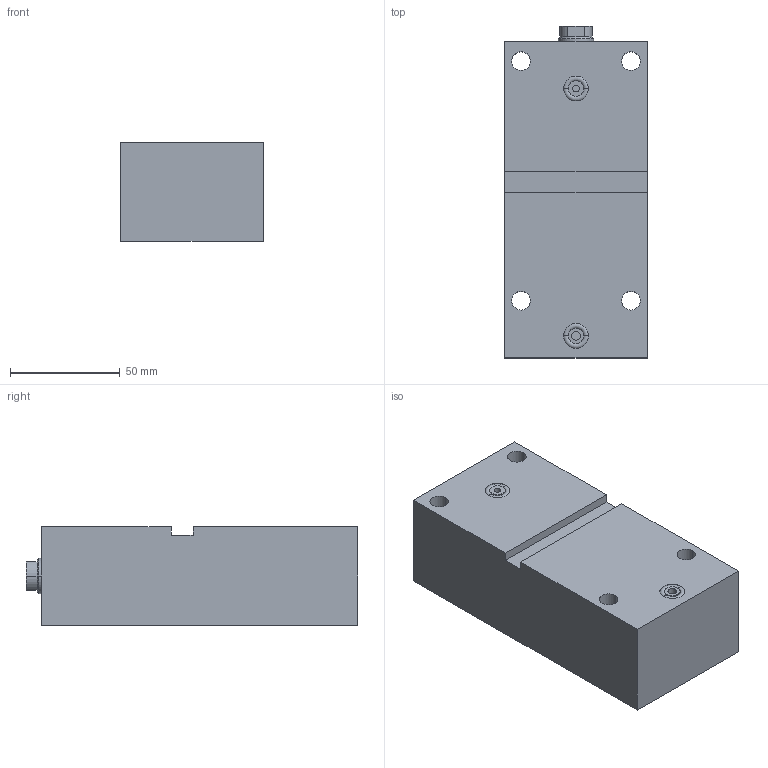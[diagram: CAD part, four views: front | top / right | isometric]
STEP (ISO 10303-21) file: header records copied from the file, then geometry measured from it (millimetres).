
FILE_DESCRIPTION (( 'STEP AP203' ), '1' );
FILE_NAME ('GERMA_Blockzylinder_603-025-100.STEP', '2016-01-08T18:12:15', ( '' ), ( '' ), 'SwSTEP 2.0', 'SolidWorks 2015', '' );
FILE_SCHEMA (( 'CONFIG_CONTROL_DESIGN' ));
Length unit declared in the file: millimetre
Products named in the file (3): GH-600-025_GH-603-025-100; Kolben 60x-025_Kolben DU.25-Hub100-IG; GERMA_Blockzylinder_603-025-100
Assembly tree (2 placements, depth 2):
  GERMA_Blockzylinder_603-025-100
    GH-600-025_GH-603-025-100
    Kolben 60x-025_Kolben DU.25-Hub100-IG
Bounding box: 65 x 151 x 45 mm (x, y, z)
Volume: 379262.3 mm3; surface area: 62021.7 mm2
Topology: 2 solids, 2 shells, 85 faces, 188 edges, 114 vertices
Faces by surface type: cylinder 41, plane 26, cone 14, torus 4
Entity records: 2638 total; most frequent: DIRECTION 459, CARTESIAN_POINT 386, ORIENTED_EDGE 364, AXIS2_PLACEMENT_3D 187, EDGE_CURVE 182, VERTEX_POINT 114, EDGE_LOOP 106, CIRCLE 97
